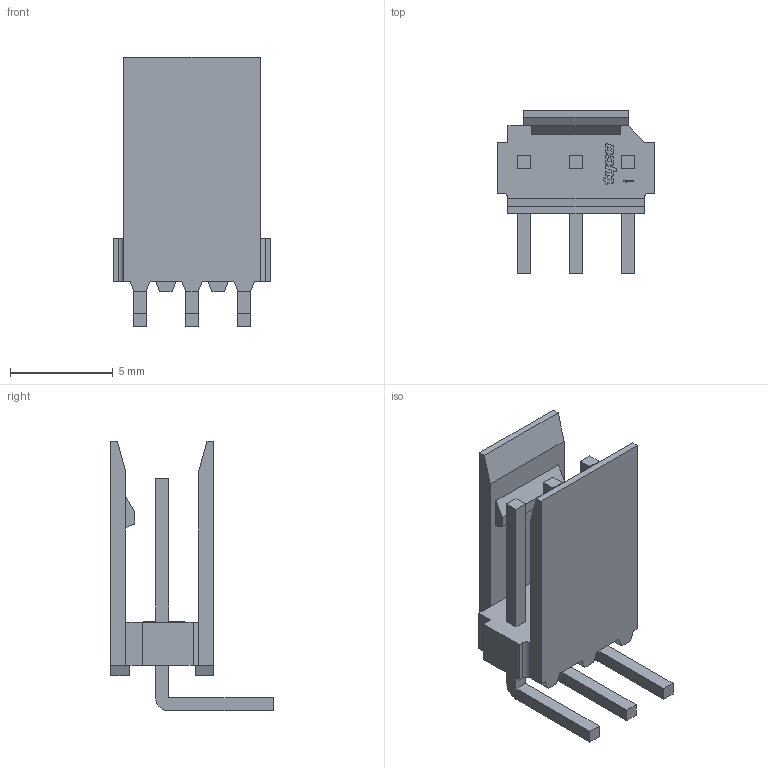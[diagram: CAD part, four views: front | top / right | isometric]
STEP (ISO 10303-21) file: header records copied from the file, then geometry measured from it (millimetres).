
FILE_DESCRIPTION(('STEP AP242'),'1');
FILE_NAME('1205991_281698-3.stp','2020-02-28T16:40:09',('TraceParts'),('TraceParts S.A.'),'Spatial InterOp 3D',' ',' ');
FILE_SCHEMA(('AP242_MANAGED_MODEL_BASED_3D_ENGINEERING_MIM_LF {1 0 10303 442 1 1 4}'));
Length unit declared in the file: millimetre
Products named in the file (1): 1205991_281698-3
Bounding box: 7.62 x 7.9 x 13.12 mm (x, y, z)
Volume: 163.7 mm3; surface area: 464 mm2
Topology: 1 solids, 1 shells, 184 faces, 505 edges, 336 vertices
Faces by surface type: plane 141, cylinder 43
Entity records: 5814 total; most frequent: CARTESIAN_POINT 1026, ORIENTED_EDGE 1010, DIRECTION 961, EDGE_CURVE 505, LINE 419, VECTOR 419, VERTEX_POINT 336, AXIS2_PLACEMENT_3D 271
